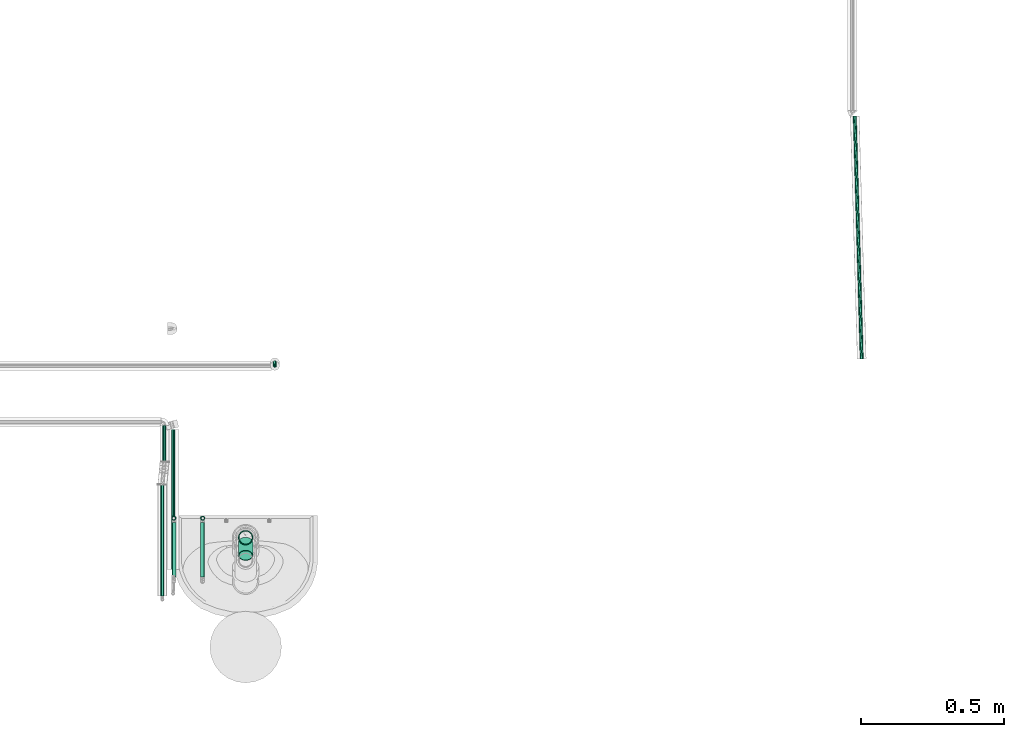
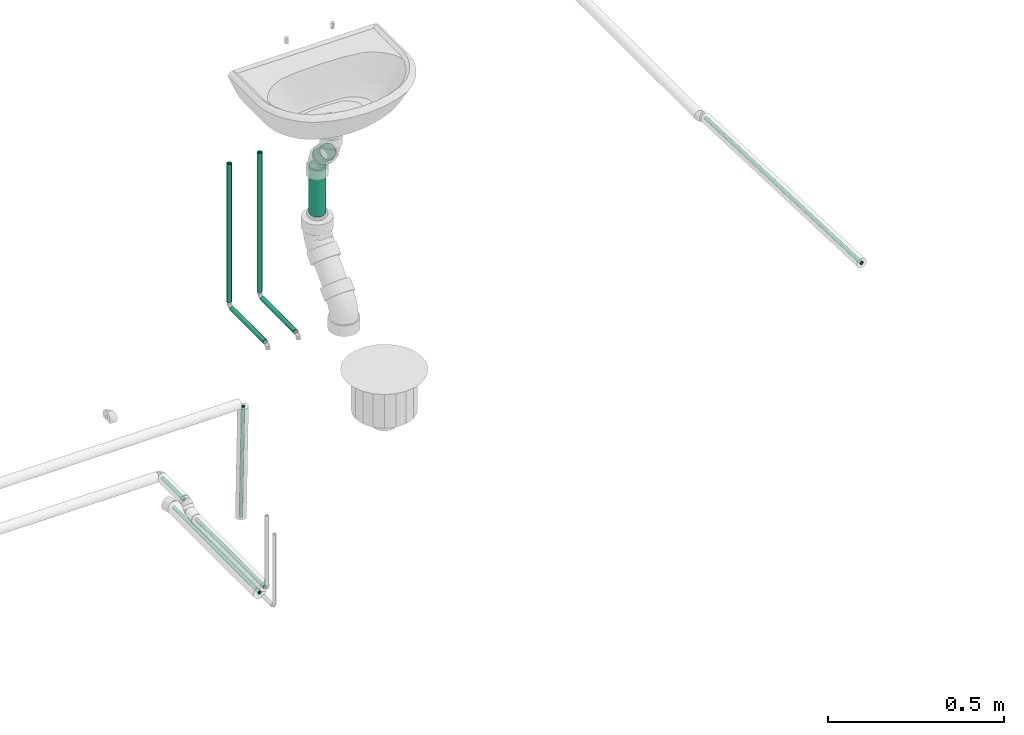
# One storey, part 57 of 108: 11 flow segments.
"""IFC2X3 building model written with IfcOpenShell, lengths in millimetres."""

from ifc_helpers import new_model, entity, si_unit, converted_unit, derived_unit, direction, frame, origin_with_axes, origin_2d_with_axis, place, context, subcontext, project, spatial, hollow_circle, extrude, source, transform, mapped, type_object, element, save


model = new_model("IFC2X3")

# Units and contexts
model_context = context("Model", 3, precision=0.01, world=frame((0.0, 4.29681676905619e-09, 0.0)), true_north=direction((4.01073788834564e-13, 1.0)))
plan_context = context("Plan", 3, precision=0.01, world=frame((0.0, 4.29681676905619e-09, 0.0)), true_north=direction((4.01073788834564e-13, 1.0)))
body_context = subcontext(model_context, "Body", "Model", "MODEL_VIEW")
ifc_project = project(units=[converted_unit("PLANEANGLEUNIT", "DEGREE", entity("IfcPositiveLengthMeasure", 0.0174532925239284), si_unit("PLANEANGLEUNIT", "RADIAN"), dimensions=[0, 0, 0, 0, 0, 0, 0]), si_unit("AREAUNIT", "SQUARE_METRE"), si_unit("LENGTHUNIT", "METRE", prefix="MILLI"), si_unit("MASSUNIT", "GRAM", prefix="KILO"), si_unit("POWERUNIT", "WATT"), si_unit("PRESSUREUNIT", "PASCAL", prefix="KILO"), si_unit("FORCEUNIT", "NEWTON", prefix="KILO"), si_unit("ELECTRICVOLTAGEUNIT", "VOLT"), si_unit("ELECTRICCURRENTUNIT", "AMPERE"), si_unit("THERMODYNAMICTEMPERATUREUNIT", "DEGREE_CELSIUS"), si_unit("TIMEUNIT", "SECOND"), si_unit("VOLUMEUNIT", "CUBIC_METRE"), derived_unit("LINEARVELOCITYUNIT", [(si_unit("LENGTHUNIT", "METRE"), 1), (si_unit("TIMEUNIT", "SECOND"), -1)]), derived_unit("VOLUMETRICFLOWRATEUNIT", [(si_unit("VOLUMEUNIT", "CUBIC_METRE"), 1), (si_unit("TIMEUNIT", "SECOND"), -1)]), derived_unit("THERMALTRANSMITTANCEUNIT", [(si_unit("POWERUNIT", "WATT"), 1), (si_unit("THERMODYNAMICTEMPERATUREUNIT", "KELVIN"), -1), (si_unit("AREAUNIT", "SQUARE_METRE"), -1)]), derived_unit("SOUNDPRESSUREUNIT", [(si_unit("PRESSUREUNIT", "PASCAL"), 1)])], contexts=[model_context, plan_context])

# Site, building, storey
site_placement = place(None, frame((0.0, -4.29681676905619e-09, 0.0), z_axis=(0.0, 0.0, 1.0), x_axis=(1.0, 0.0, 0.0)))
site = spatial("IfcSite", under=ifc_project, at=site_placement, CompositionType="ELEMENT")
building_placement = place(site_placement, frame((0.0, 4.29681676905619e-09, 0.0), z_axis=(0.0, 0.0, 1.0), x_axis=(1.0, 0.0, 0.0)))
building = spatial("IfcBuilding", under=site, at=building_placement, Name="mc-building", CompositionType="ELEMENT")
storey_placement = place(building_placement, frame((0.0, 0.0, 210200.0), z_axis=(0.0, 0.0, 1.0), x_axis=(1.0, 0.0, 0.0)))
storey = spatial("IfcBuildingStorey", under=building, at=storey_placement, Name="Nivå F - 0,7 m", CompositionType="ELEMENT", Elevation=210200.0)

# Flow segments
pipe_segment_type_1 = type_object("IfcPipeSegmentType", Name="PP avløpsrør", PredefinedType="RIGIDSEGMENT")
shared_shape_1 = source(origin_with_axes(), body_context, "Body", "SweptSolid", [
    extrude(hollow_circle(Radius=25.0, WallThickness=2.0, at=origin_2d_with_axis()), frame((0.0, 0.0, 0.0), z_axis=(1.0, 0.0, 0.0), x_axis=(0.0, 1.0, 0.0)), (0.0, 0.0, 1.0), 64.8),
])
flow_segment_1_placement = place(storey_placement, frame((339409.94567, 460642.25224, 573.890870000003), z_axis=(0.0, 0.707106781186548, 0.707106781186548), x_axis=(0.0, 0.707106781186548, -0.707106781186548)))
element("IfcFlowSegment", 1, at=flow_segment_1_placement, inside=storey, type_object=pipe_segment_type_1, Name="PP avløpsrør", context=body_context, shape_type="MappedRepresentation", body=[
    mapped(shared_shape_1, transform((0.0, 0.0, 0.0), scale=1.0)),
])
shared_shape_2 = source(origin_with_axes(), body_context, "Body", "SweptSolid", [
    extrude(hollow_circle(Radius=25.0, WallThickness=2.0, at=origin_2d_with_axis()), frame((0.0, 0.0, 0.0), z_axis=(1.0, 0.0, 0.0), x_axis=(0.0, 1.0, 0.0)), (0.0, 0.0, 1.0), 164.2),
])
flow_segment_2_placement = place(storey_placement, frame((339409.94567, 460704.19354, 324.998330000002), z_axis=(1.0, 0.0, 0.0), x_axis=(0.0, 0.0, 1.0)))
element("IfcFlowSegment", 2, at=flow_segment_2_placement, inside=storey, type_object=pipe_segment_type_1, Name="PP avløpsrør", context=body_context, shape_type="MappedRepresentation", body=[
    mapped(shared_shape_2, transform((0.0, 0.0, 0.0), scale=1.0)),
])
pipe_segment_type_2 = type_object("IfcPipeSegmentType", Name="Kobberrør", PredefinedType="RIGIDSEGMENT")
shared_shape_3 = source(origin_with_axes(), body_context, "Body", "SweptSolid", [
    extrude(hollow_circle(Radius=7.5, WallThickness=2.0, at=origin_2d_with_axis()), frame((0.0, 0.0, 0.0), z_axis=(1.0, 0.0, 0.0), x_axis=(0.0, 1.0, 0.0)), (0.0, 0.0, 1.0), 190.0),
])
for number, where, z_axis, x_axis in (
    (3, (339259.94567, 460567.16559, 45.4768700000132), (0.0, 0.0, 1.0), (0.0, 1.0, 0.0)),
    (4, (339159.94567, 460567.16559, 45.4768700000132), (0.0, 0.0, 1.0), (0.0, 1.0, 0.0)),
):
    element("IfcFlowSegment", number, at=place(storey_placement, frame(where, z_axis=z_axis, x_axis=x_axis)), inside=storey, type_object=pipe_segment_type_2, Name="Kobberrør", context=body_context, shape_type="MappedRepresentation", body=[
        mapped(shared_shape_3, transform((0.0, 0.0, 0.0), scale=1.0)),
    ])
shared_shape_4 = source(origin_with_axes(), body_context, "Body", "SweptSolid", [
    extrude(hollow_circle(Radius=7.5, WallThickness=2.0, at=origin_2d_with_axis()), frame((0.0, 0.0, 0.0), z_axis=(1.0, 0.0, 0.0), x_axis=(0.0, 1.0, 0.0)), (0.0, 0.0, 1.0), 485.0),
])
flow_segment_3_placement = place(storey_placement, frame((339259.94567, 460772.16559, 60.4768700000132), z_axis=(1.0, 0.0, 0.0), x_axis=(0.0, 0.0, 1.0)))
element("IfcFlowSegment", 5, at=flow_segment_3_placement, inside=storey, type_object=pipe_segment_type_2, Name="Kobberrør", context=body_context, shape_type="MappedRepresentation", body=[
    mapped(shared_shape_4, transform((0.0, 0.0, 0.0), scale=1.0)),
])
shared_shape_5 = source(origin_with_axes(), body_context, "Body", "SweptSolid", [
    extrude(hollow_circle(Radius=7.5, WallThickness=2.0, at=origin_2d_with_axis()), frame((0.0, 0.0, 0.0), z_axis=(1.0, 0.0, 0.0), x_axis=(0.0, 1.0, 0.0)), (0.0, 0.0, 1.0), 481.1),
])
flow_segment_4_placement = place(storey_placement, frame((339159.94567, 460772.16559, 60.4768700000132), z_axis=(1.0, 0.0, 0.0), x_axis=(0.0, 0.0, 1.0)))
element("IfcFlowSegment", 6, at=flow_segment_4_placement, inside=storey, type_object=pipe_segment_type_2, Name="Kobberrør", context=body_context, shape_type="MappedRepresentation", body=[
    mapped(shared_shape_5, transform((0.0, 0.0, 0.0), scale=1.0)),
])
shared_shape_6 = source(origin_with_axes(), body_context, "Body", "SweptSolid", [
    extrude(hollow_circle(Radius=6.0, WallThickness=2.0, at=origin_2d_with_axis()), frame((0.0, 0.0, 0.0), z_axis=(1.0, 0.0, 0.0), x_axis=(0.0, 1.0, 0.0)), (0.0, 0.0, 1.0), 125.6),
])
flow_segment_5_placement = place(storey_placement, frame((339126.94674, 461095.00941, -735.809999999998), z_axis=(0.0, 0.0, 1.0), x_axis=(0.0, -1.0, 0.0)))
element("IfcFlowSegment", 7, at=flow_segment_5_placement, inside=storey, type_object=pipe_segment_type_2, Name="Kobberrør", context=body_context, shape_type="MappedRepresentation", body=[
    mapped(shared_shape_6, transform((0.0, 0.0, 0.0), scale=1.0)),
])
shared_shape_7 = source(origin_with_axes(), body_context, "Body", "SweptSolid", [
    extrude(hollow_circle(Radius=6.0, WallThickness=2.0, at=origin_2d_with_axis()), frame((0.0, 0.0, 0.0), z_axis=(1.0, 0.0, 0.0), x_axis=(0.0, 1.0, 0.0)), (0.0, 0.0, 1.0), 391.2),
])
flow_segment_6_placement = place(storey_placement, frame((339511.94555, 461303.55425, -747.831479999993), z_axis=(1.0, 0.0, 0.0), x_axis=(0.0, 0.0301099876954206, -0.999546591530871)))
element("IfcFlowSegment", 8, at=flow_segment_6_placement, inside=storey, type_object=pipe_segment_type_2, Name="Kobberrør", context=body_context, shape_type="MappedRepresentation", body=[
    mapped(shared_shape_7, transform((0.0, 0.0, 0.0), scale=1.0)),
])
shared_shape_8 = source(origin_with_axes(), body_context, "Body", "SweptSolid", [
    extrude(hollow_circle(Radius=6.0, WallThickness=2.0, at=origin_2d_with_axis()), frame((0.0, 0.0, 0.0), z_axis=(1.0, 0.0, 0.0), x_axis=(0.0, 1.0, 0.0)), (0.0, 0.0, 1.0), 387.4),
])
flow_segment_7_placement = place(storey_placement, frame((339119.44674, 460500.75941, -750.773129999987), z_axis=(0.0, 0.0, 1.0), x_axis=(0.0, 1.0, 0.0)))
element("IfcFlowSegment", 9, at=flow_segment_7_placement, inside=storey, type_object=pipe_segment_type_2, Name="Kobberrør", context=body_context, shape_type="MappedRepresentation", body=[
    mapped(shared_shape_8, transform((0.0, 0.0, 0.0), scale=1.0)),
])
shared_shape_9 = source(origin_with_axes(), body_context, "Body", "SweptSolid", [
    extrude(hollow_circle(Radius=6.0, WallThickness=2.0, at=origin_2d_with_axis()), frame((0.0, 0.0, 0.0), z_axis=(1.0, 0.0, 0.0), x_axis=(0.0, 1.0, 0.0)), (0.0, 0.0, 1.0), 846.8),
])
flow_segment_8_placement = place(storey_placement, frame((341557.8554, 461327.68812, -981.678400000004), z_axis=(0.0, 0.0, 1.0), x_axis=(-0.0286059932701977, 0.999590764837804, 0.0)))
element("IfcFlowSegment", 10, at=flow_segment_8_placement, inside=storey, type_object=pipe_segment_type_2, Name="Kobberrør", context=body_context, shape_type="MappedRepresentation", body=[
    mapped(shared_shape_9, transform((0.0, 0.0, 0.0), scale=1.0)),
])
shared_shape_10 = source(origin_with_axes(), body_context, "Body", "SweptSolid", [
    extrude(hollow_circle(Radius=6.0, WallThickness=2.0, at=origin_2d_with_axis()), frame((0.0, 0.0, 0.0), z_axis=(1.0, 0.0, 0.0), x_axis=(0.0, 1.0, 0.0)), (0.0, 0.0, 1.0), 487.9),
])
flow_segment_9_placement = place(storey_placement, frame((339156.94674, 461081.74147, -840.773129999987), z_axis=(0.0, 0.0, 1.0), x_axis=(0.0, -1.0, 0.0)))
element("IfcFlowSegment", 11, at=flow_segment_9_placement, inside=storey, type_object=pipe_segment_type_2, Name="Kobberrør", context=body_context, shape_type="MappedRepresentation", body=[
    mapped(shared_shape_10, transform((0.0, 0.0, 0.0), scale=1.0)),
])

save(model, "model.ifc")
